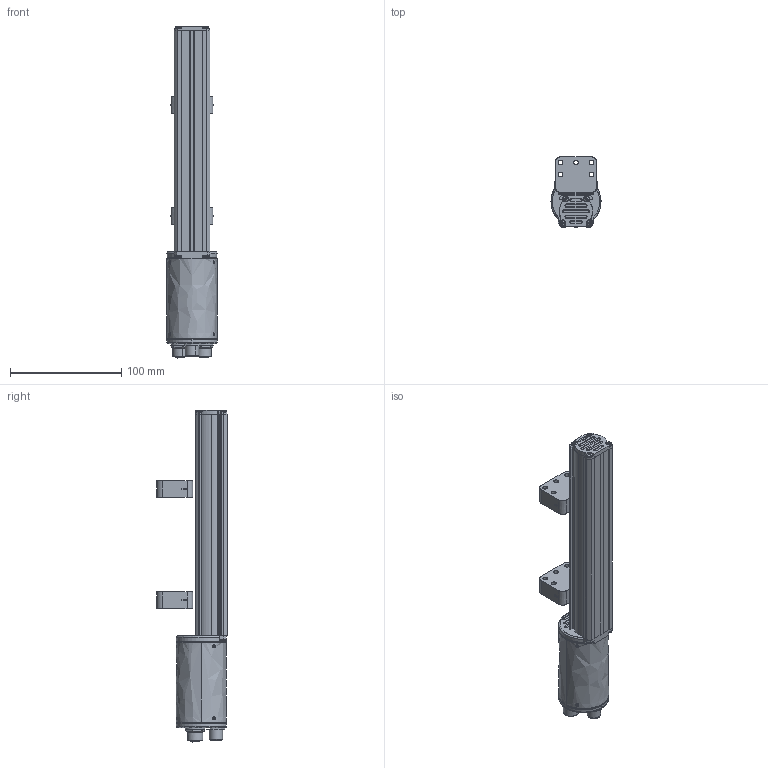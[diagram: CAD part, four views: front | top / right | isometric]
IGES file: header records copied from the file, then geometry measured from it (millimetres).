
Start section: SolidWorks IGES file using analytic representation for surfaces
Global section: file name: \\srv4gefran\Dir-cat\Disegni Catalogo\Posizione\WPA-E\WPA-E-T-0100\3D\Solidworks 2023\WPA-E-T-0100\WPA-E-T-0100.IGS; native system: SolidWorks 2023; preprocessor: SolidWorks 2023; author: Loda-w1; date: 231128.142202; units: millimetre
Bounding box: 45 x 62.95 x 298.55 mm (x, y, z)
Surface area: 78679 mm2 (no closed solid volume)
Topology: 0 solids, 0 shells, 2045 faces, 18210 edges, 18182 vertices
Faces by surface type: revolution 1343, bspline 702
